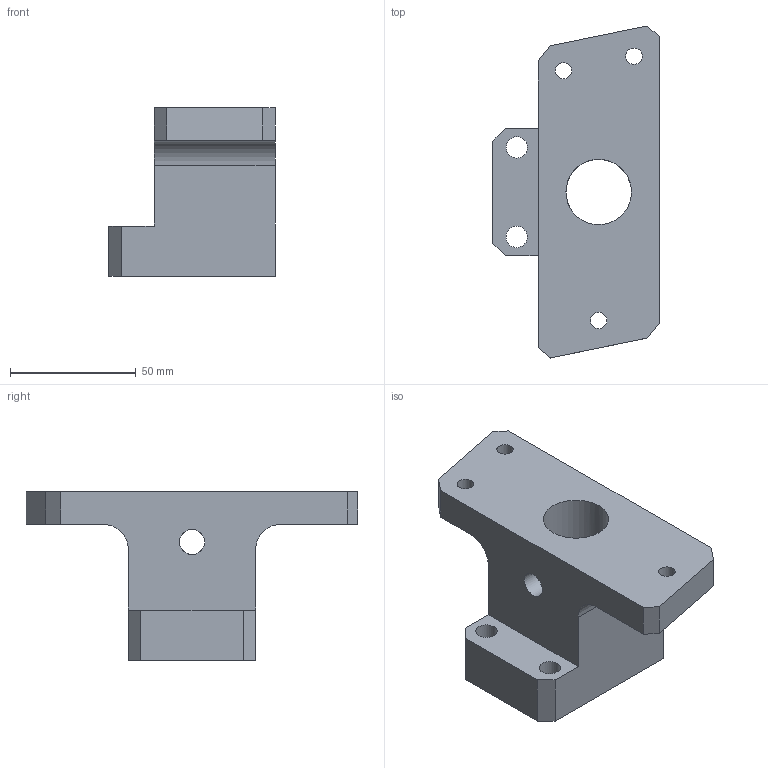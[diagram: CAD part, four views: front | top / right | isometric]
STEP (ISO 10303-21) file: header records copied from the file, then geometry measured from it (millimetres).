
FILE_DESCRIPTION(/* description */ ('SUPPORT VANNE DE PURGE','CAx-IF Rec.Pracs.---Representation and Presentation of Product Manufacturing Information (PMI)---4.0---2014-10-13'),/* implementation_level */ '2;1');
FILE_NAME(/* name */ 'vv180901-A.stp',/* time_stamp */ '2025-09-30T14:12:43+02:00',/* author */ ('PUIGSERVER B.'),/* organization */ (''),/* preprocessor_version */ 'ST-DEVELOPER v20',/* originating_system */ 'Autodesk Inventor 2025',/* authorisation */ '');
FILE_SCHEMA (('AP242_MANAGED_MODEL_BASED_3D_ENGINEERING_MIM_LF { 1 0 10303 442 1 1 4 }'));
Length unit declared in the file: millimetre
Products named in the file (1): VICTOR.V.18.09.01
Bounding box: 66 x 131.73 x 67 mm (x, y, z)
Volume: 186391.8 mm3; surface area: 35071.1 mm2
Topology: 1 solids, 1 shells, 28 faces, 82 edges, 55 vertices
Faces by surface type: plane 18, cylinder 10
Full cylindrical faces by diameter (mm): 6.5 x3, 8.5 x2, 10 x2, 26 x1
Entity records: 1361 total; most frequent: CARTESIAN_POINT 343, DIRECTION 165, ORIENTED_EDGE 164, EDGE_CURVE 82, STYLED_ITEM 65, LINE 59, VECTOR 59, VERTEX_POINT 55
